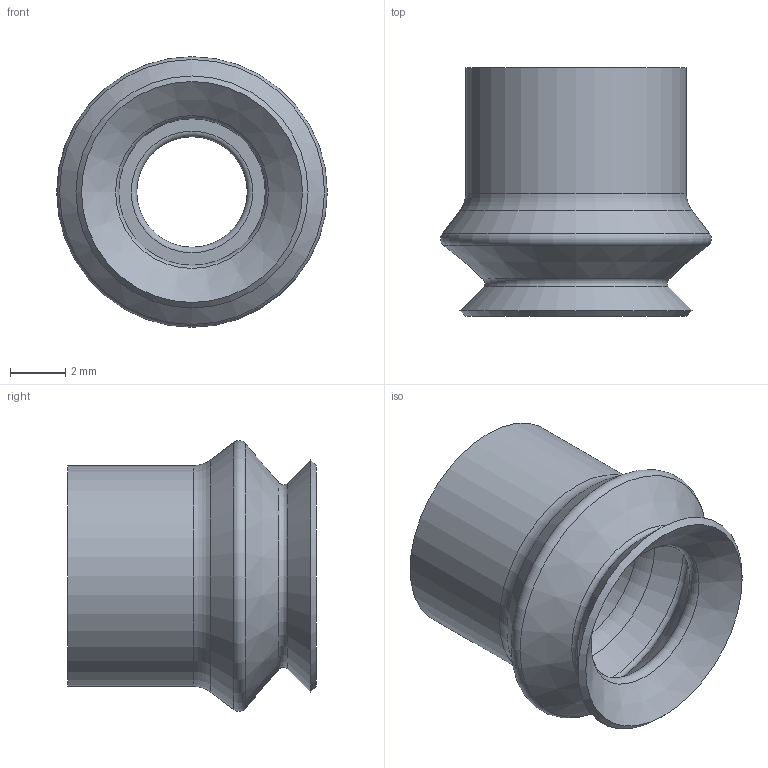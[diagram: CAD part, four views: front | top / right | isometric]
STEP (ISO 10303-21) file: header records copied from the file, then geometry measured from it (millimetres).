
FILE_DESCRIPTION(('STEP AP203'),'1');
FILE_NAME('_3D.stp','2024-06-11T23:53:08',(' '),(' '),'Spatial InterOp 3D',' ',' ');
FILE_SCHEMA(('CONFIG_CONTROL_DESIGN'));
Length unit declared in the file: millimetre
Products named in the file (1): 1
Bounding box: 9.8 x 9 x 9.8 mm (x, y, z)
Volume: 215.5 mm3; surface area: 513 mm2
Topology: 1 solids, 1 shells, 21 faces, 51 edges, 32 vertices
Faces by surface type: torus 9, cone 7, cylinder 3, plane 2
Full cylindrical faces by diameter (mm): 4 x1, 6 x1, 8 x1
Entity records: 472 total; most frequent: DIRECTION 86, CARTESIAN_POINT 64, AXIS2_PLACEMENT_3D 43, EDGE_LOOP 42, ORIENTED_EDGE 42, FACE_OUTER_BOUND 33, ADVANCED_FACE 21, EDGE_CURVE 21
